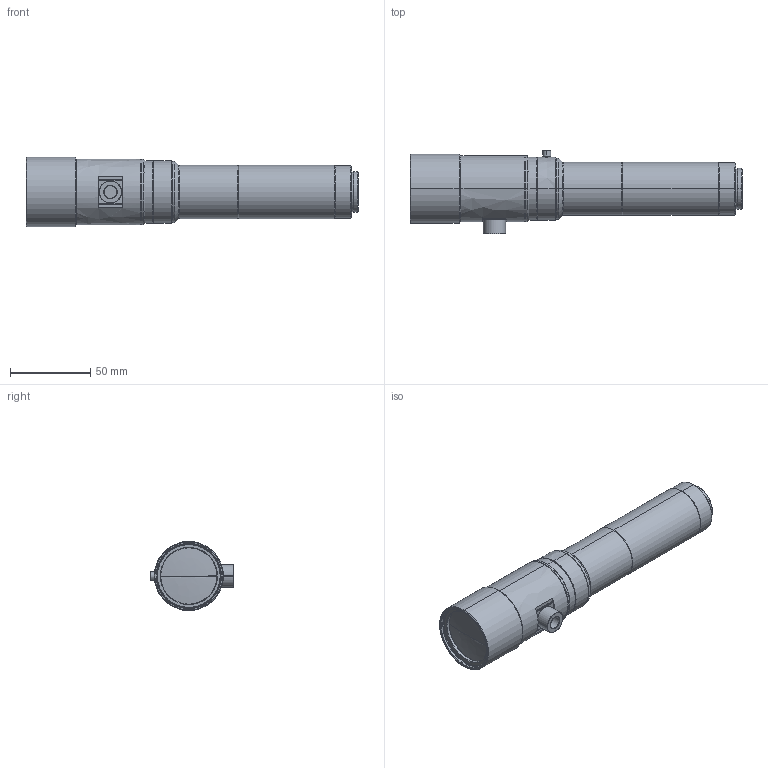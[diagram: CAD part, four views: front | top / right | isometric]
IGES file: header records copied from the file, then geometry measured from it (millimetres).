
Start section: SolidWorks IGES file using analytic representation for surfaces
Bounding box: 206.47 x 52.05 x 43 mm (x, y, z)
Surface area: 28433.1 mm2 (no closed solid volume)
Topology: 0 solids, 0 shells, 142 faces, 2372 edges, 2371 vertices
Faces by surface type: revolution 110, bspline 32
